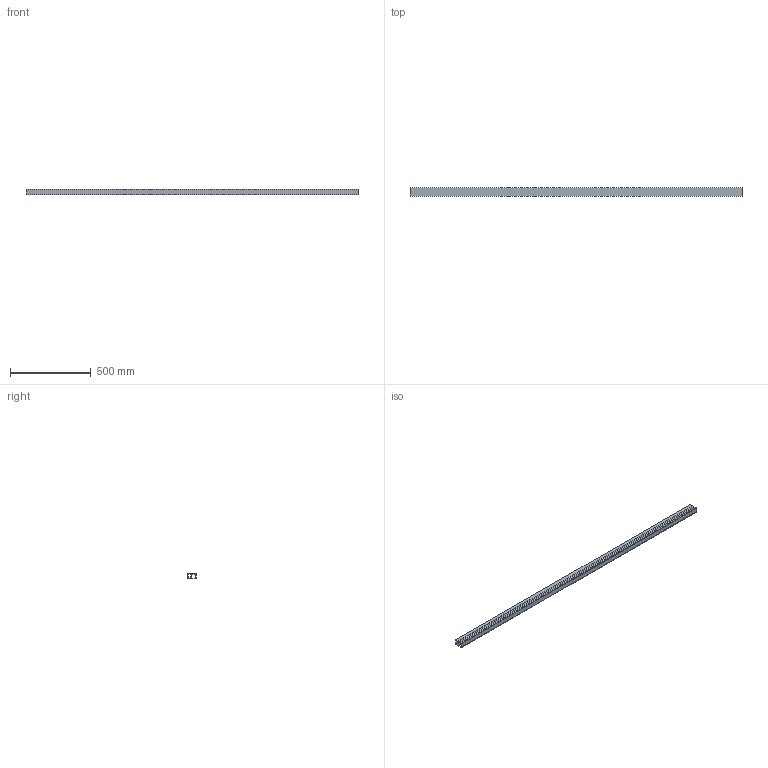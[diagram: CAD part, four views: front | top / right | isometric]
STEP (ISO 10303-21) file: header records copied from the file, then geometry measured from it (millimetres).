
FILE_DESCRIPTION(('STEP AP242'),'1');
FILE_NAME('OPO_65.081.31_volu_3d.stp','2026-01-30T20:50:01',(' '),(' '),'Spatial InterOp 3D',' ',' ');
FILE_SCHEMA(('AP242_MANAGED_MODEL_BASED_3D_ENGINEERING_MIM_LF {1 0 10303 442 1 1 4}'));
Length unit declared in the file: millimetre
Products named in the file (1): 1
Bounding box: 2050 x 53 x 33 mm (x, y, z)
Volume: 914171.9 mm3; surface area: 754083.9 mm2
Topology: 1 solids, 1 shells, 88 faces, 244 edges, 162 vertices
Faces by surface type: plane 68, cylinder 20
Entity records: 3516 total; most frequent: CARTESIAN_POINT 495, ORIENTED_EDGE 488, DIRECTION 462, EDGE_CURVE 244, LINE 204, VECTOR 204, VERTEX_POINT 162, AXIS2_PLACEMENT_3D 129
